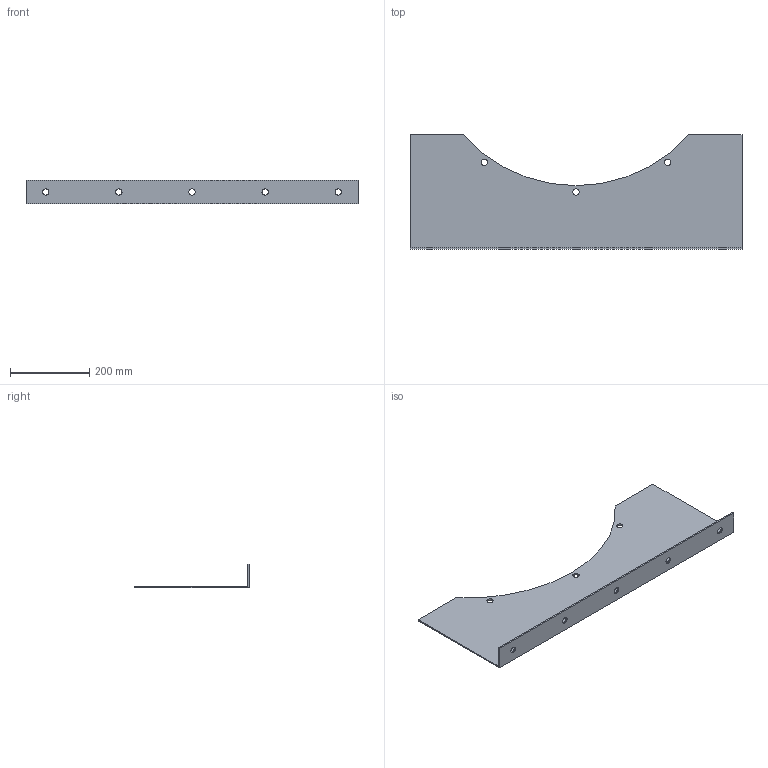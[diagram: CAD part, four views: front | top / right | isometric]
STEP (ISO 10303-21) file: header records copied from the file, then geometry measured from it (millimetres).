
FILE_DESCRIPTION(('STEP AP214'),'1');
FILE_NAME('accessory_5120703300.stp','2017-10-09T07:39:28',('TraceParts'),('TraceParts S.A.'),'Spatial InterOp 3D',' ',' ');
FILE_SCHEMA(('automotive_design'));
Length unit declared in the file: millimetre
Products named in the file (1): accessory_5120703300
Bounding box: 840 x 290 x 60 mm (x, y, z)
Volume: 952329.7 mm3; surface area: 487561.1 mm2
Topology: 1 solids, 1 shells, 26 faces, 72 edges, 48 vertices
Faces by surface type: cylinder 17, plane 9
Entity records: 1106 total; most frequent: DIRECTION 160, CARTESIAN_POINT 147, ORIENTED_EDGE 144, EDGE_CURVE 72, AXIS2_PLACEMENT_3D 61, VERTEX_POINT 48, EDGE_LOOP 42, LINE 38
